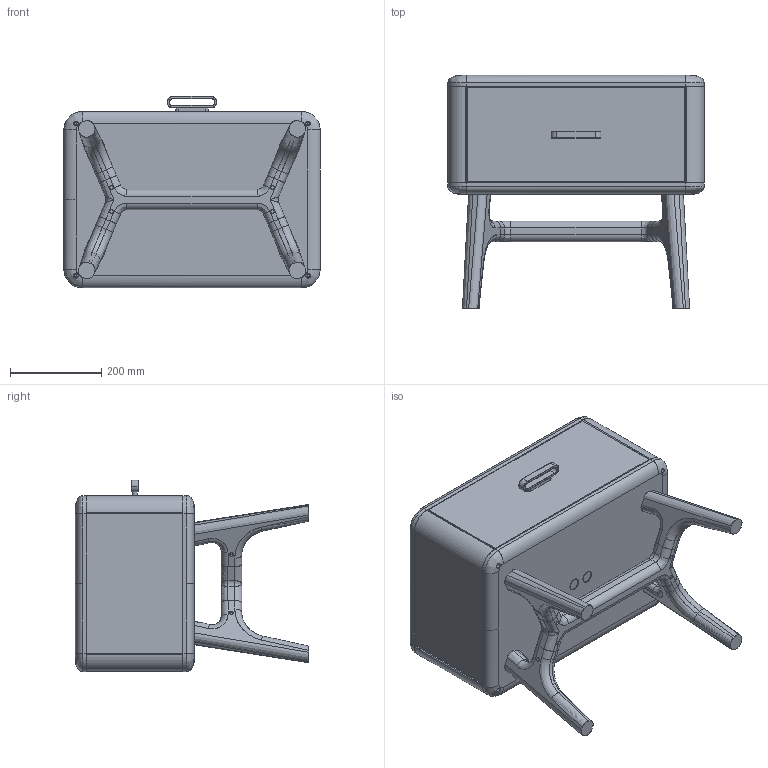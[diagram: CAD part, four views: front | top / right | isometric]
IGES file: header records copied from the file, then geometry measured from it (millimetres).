
Start section: SolidWorks IGES file using analytic representation for surfaces
Global section: file name: C:\Users\Ruben.BDLE\Box\Neri & Hu\785_786 Solo Wood Cabinets and Side Table\sales related\3D IGES\786_Solo_Wood Bed Side Table_va_prmt.IGS; native system: SolidWorks 2016; preprocessor: SolidWorks 2016; author: Ruben; date: 200506.085543; units: millimetre
Bounding box: 560 x 510 x 418.26 mm (x, y, z)
Surface area: 3254124.2 mm2 (no closed solid volume)
Topology: 0 solids, 0 shells, 932 faces, 12998 edges, 12922 vertices
Faces by surface type: bspline 486, revolution 446
